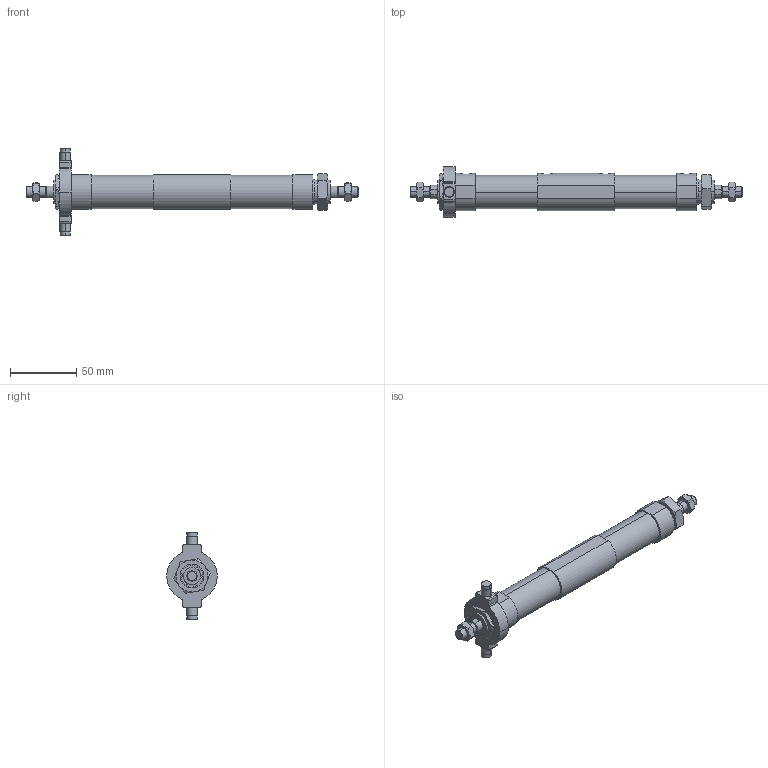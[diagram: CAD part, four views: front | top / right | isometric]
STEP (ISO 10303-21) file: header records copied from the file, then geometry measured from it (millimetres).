
FILE_DESCRIPTION (( 'STEP AP203' ), '1' );
FILE_NAME ('JGD7-20-15-15-T.STEP', '2016-04-19T07:22:02', ( '' ), ( '' ), 'SwSTEP 2.0', 'SolidWorks 2014', '' );
FILE_SCHEMA (( 'CONFIG_CONTROL_DESIGN' ));
Length unit declared in the file: millimetre
Products named in the file (8): J#2-20-T; JGD2-20MI; M18x1.5-3mm; JGD7-20-15-15-T; M18x1.5-8mm; JGLH2-20B; 20-15; M8x1.25-5mm
Assembly tree (10 placements, depth 2):
  JGD7-20-15-15-T
    JGLH2-20B  x2
    20-15  x2
    JGD2-20MI
    M8x1.25-5mm  x2
    M18x1.5-3mm
    J#2-20-T
    M18x1.5-8mm
Bounding box: 250 x 38 x 66 mm (x, y, z)
Volume: 119147.5 mm3; surface area: 32506.5 mm2
Topology: 10 solids, 10 shells, 205 faces, 445 edges, 274 vertices
Faces by surface type: plane 78, cylinder 63, torus 48, cone 16
Entity records: 5629 total; most frequent: CARTESIAN_POINT 1432, DIRECTION 709, ORIENTED_EDGE 658, EDGE_CURVE 329, AXIS2_PLACEMENT_3D 299, VERTEX_POINT 202, EDGE_LOOP 167, FACE_OUTER_BOUND 150
